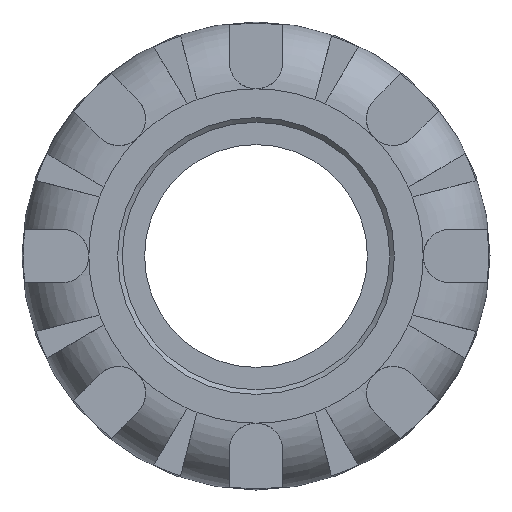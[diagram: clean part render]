
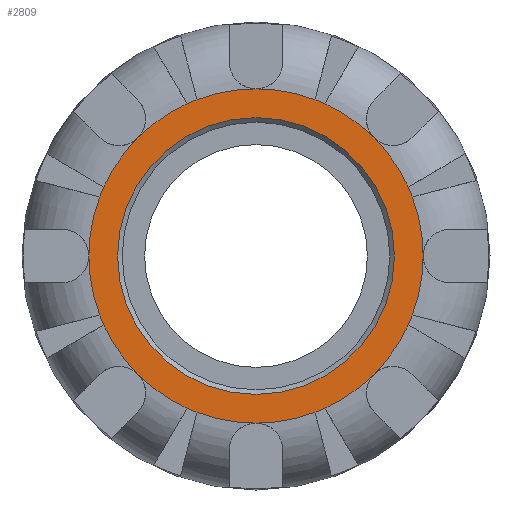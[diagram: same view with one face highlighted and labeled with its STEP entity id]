
A CAD part, left-side view. The second image highlights one B-rep face of the part: STEP entity #2809.
In plain terms, the highlighted planar face has unit normal (-1, 0, 0).
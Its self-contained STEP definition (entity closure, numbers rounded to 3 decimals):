
#25=FACE_BOUND('',#490,.T.);
#114=CIRCLE('',#3048,20.7);
#115=CIRCLE('',#3050,25.);
#116=CIRCLE('',#3051,25.);
#117=CIRCLE('',#3052,25.);
#118=CIRCLE('',#3053,25.);
#119=CIRCLE('',#3054,25.);
#120=CIRCLE('',#3055,25.);
#121=CIRCLE('',#3056,25.);
#122=CIRCLE('',#3057,25.);
#123=CIRCLE('',#3058,25.);
#124=CIRCLE('',#3059,25.);
#125=CIRCLE('',#3060,25.);
#126=CIRCLE('',#3061,25.);
#127=CIRCLE('',#3062,25.);
#128=CIRCLE('',#3063,25.);
#129=CIRCLE('',#3064,25.);
#130=CIRCLE('',#3065,25.);
#131=CIRCLE('',#3066,25.);
#132=CIRCLE('',#3067,25.);
#133=CIRCLE('',#3068,25.);
#134=CIRCLE('',#3069,25.);
#135=CIRCLE('',#3070,25.);
#136=CIRCLE('',#3071,25.);
#137=CIRCLE('',#3072,25.);
#138=CIRCLE('',#3073,25.);
#320=FACE_OUTER_BOUND('',#489,.T.);
#489=EDGE_LOOP('',(#2048,#2049,#2050,#2051,#2052,#2053,#2054,#2055,#2056,
#2057,#2058,#2059,#2060,#2061,#2062,#2063,#2064,#2065,#2066,#2067,#2068,
#2069,#2070,#2071));
#490=EDGE_LOOP('',(#2072));
#1115=VERTEX_POINT('',#5233);
#1116=VERTEX_POINT('',#5236);
#1117=VERTEX_POINT('',#5237);
#1118=VERTEX_POINT('',#5239);
#1119=VERTEX_POINT('',#5241);
#1120=VERTEX_POINT('',#5243);
#1121=VERTEX_POINT('',#5245);
#1122=VERTEX_POINT('',#5247);
#1123=VERTEX_POINT('',#5249);
#1124=VERTEX_POINT('',#5251);
#1125=VERTEX_POINT('',#5253);
#1126=VERTEX_POINT('',#5255);
#1127=VERTEX_POINT('',#5257);
#1128=VERTEX_POINT('',#5259);
#1129=VERTEX_POINT('',#5261);
#1130=VERTEX_POINT('',#5263);
#1131=VERTEX_POINT('',#5265);
#1132=VERTEX_POINT('',#5267);
#1133=VERTEX_POINT('',#5269);
#1134=VERTEX_POINT('',#5271);
#1135=VERTEX_POINT('',#5273);
#1136=VERTEX_POINT('',#5275);
#1137=VERTEX_POINT('',#5277);
#1138=VERTEX_POINT('',#5279);
#1139=VERTEX_POINT('',#5281);
#1449=EDGE_CURVE('',#1115,#1115,#114,.T.);
#1450=EDGE_CURVE('',#1116,#1117,#115,.T.);
#1451=EDGE_CURVE('',#1118,#1116,#116,.T.);
#1452=EDGE_CURVE('',#1119,#1118,#117,.T.);
#1453=EDGE_CURVE('',#1120,#1119,#118,.T.);
#1454=EDGE_CURVE('',#1121,#1120,#119,.T.);
#1455=EDGE_CURVE('',#1122,#1121,#120,.T.);
#1456=EDGE_CURVE('',#1123,#1122,#121,.T.);
#1457=EDGE_CURVE('',#1124,#1123,#122,.T.);
#1458=EDGE_CURVE('',#1125,#1124,#123,.T.);
#1459=EDGE_CURVE('',#1126,#1125,#124,.T.);
#1460=EDGE_CURVE('',#1127,#1126,#125,.T.);
#1461=EDGE_CURVE('',#1128,#1127,#126,.T.);
#1462=EDGE_CURVE('',#1129,#1128,#127,.T.);
#1463=EDGE_CURVE('',#1130,#1129,#128,.T.);
#1464=EDGE_CURVE('',#1131,#1130,#129,.T.);
#1465=EDGE_CURVE('',#1132,#1131,#130,.T.);
#1466=EDGE_CURVE('',#1133,#1132,#131,.T.);
#1467=EDGE_CURVE('',#1134,#1133,#132,.T.);
#1468=EDGE_CURVE('',#1135,#1134,#133,.T.);
#1469=EDGE_CURVE('',#1136,#1135,#134,.T.);
#1470=EDGE_CURVE('',#1137,#1136,#135,.T.);
#1471=EDGE_CURVE('',#1138,#1137,#136,.T.);
#1472=EDGE_CURVE('',#1139,#1138,#137,.T.);
#1473=EDGE_CURVE('',#1117,#1139,#138,.T.);
#2048=ORIENTED_EDGE('',*,*,#1450,.F.);
#2049=ORIENTED_EDGE('',*,*,#1451,.F.);
#2050=ORIENTED_EDGE('',*,*,#1452,.F.);
#2051=ORIENTED_EDGE('',*,*,#1453,.F.);
#2052=ORIENTED_EDGE('',*,*,#1454,.F.);
#2053=ORIENTED_EDGE('',*,*,#1455,.F.);
#2054=ORIENTED_EDGE('',*,*,#1456,.F.);
#2055=ORIENTED_EDGE('',*,*,#1457,.F.);
#2056=ORIENTED_EDGE('',*,*,#1458,.F.);
#2057=ORIENTED_EDGE('',*,*,#1459,.F.);
#2058=ORIENTED_EDGE('',*,*,#1460,.F.);
#2059=ORIENTED_EDGE('',*,*,#1461,.F.);
#2060=ORIENTED_EDGE('',*,*,#1462,.F.);
#2061=ORIENTED_EDGE('',*,*,#1463,.F.);
#2062=ORIENTED_EDGE('',*,*,#1464,.F.);
#2063=ORIENTED_EDGE('',*,*,#1465,.F.);
#2064=ORIENTED_EDGE('',*,*,#1466,.F.);
#2065=ORIENTED_EDGE('',*,*,#1467,.F.);
#2066=ORIENTED_EDGE('',*,*,#1468,.F.);
#2067=ORIENTED_EDGE('',*,*,#1469,.F.);
#2068=ORIENTED_EDGE('',*,*,#1470,.F.);
#2069=ORIENTED_EDGE('',*,*,#1471,.F.);
#2070=ORIENTED_EDGE('',*,*,#1472,.F.);
#2071=ORIENTED_EDGE('',*,*,#1473,.F.);
#2072=ORIENTED_EDGE('',*,*,#1449,.F.);
#2507=PLANE('',#3049);
#2809=ADVANCED_FACE('',(#320,#25),#2507,.T.);
#3048=AXIS2_PLACEMENT_3D('',#5234,#3591,#3592);
#3049=AXIS2_PLACEMENT_3D('',#5235,#3593,#3594);
#3050=AXIS2_PLACEMENT_3D('',#5238,#3595,#3596);
#3051=AXIS2_PLACEMENT_3D('',#5240,#3597,#3598);
#3052=AXIS2_PLACEMENT_3D('',#5242,#3599,#3600);
#3053=AXIS2_PLACEMENT_3D('',#5244,#3601,#3602);
#3054=AXIS2_PLACEMENT_3D('',#5246,#3603,#3604);
#3055=AXIS2_PLACEMENT_3D('',#5248,#3605,#3606);
#3056=AXIS2_PLACEMENT_3D('',#5250,#3607,#3608);
#3057=AXIS2_PLACEMENT_3D('',#5252,#3609,#3610);
#3058=AXIS2_PLACEMENT_3D('',#5254,#3611,#3612);
#3059=AXIS2_PLACEMENT_3D('',#5256,#3613,#3614);
#3060=AXIS2_PLACEMENT_3D('',#5258,#3615,#3616);
#3061=AXIS2_PLACEMENT_3D('',#5260,#3617,#3618);
#3062=AXIS2_PLACEMENT_3D('',#5262,#3619,#3620);
#3063=AXIS2_PLACEMENT_3D('',#5264,#3621,#3622);
#3064=AXIS2_PLACEMENT_3D('',#5266,#3623,#3624);
#3065=AXIS2_PLACEMENT_3D('',#5268,#3625,#3626);
#3066=AXIS2_PLACEMENT_3D('',#5270,#3627,#3628);
#3067=AXIS2_PLACEMENT_3D('',#5272,#3629,#3630);
#3068=AXIS2_PLACEMENT_3D('',#5274,#3631,#3632);
#3069=AXIS2_PLACEMENT_3D('',#5276,#3633,#3634);
#3070=AXIS2_PLACEMENT_3D('',#5278,#3635,#3636);
#3071=AXIS2_PLACEMENT_3D('',#5280,#3637,#3638);
#3072=AXIS2_PLACEMENT_3D('',#5282,#3639,#3640);
#3073=AXIS2_PLACEMENT_3D('',#5283,#3641,#3642);
#3591=DIRECTION('center_axis',(-1.,0.,0.));
#3592=DIRECTION('ref_axis',(0.,-1.,0.));
#3593=DIRECTION('center_axis',(-1.,0.,0.));
#3594=DIRECTION('ref_axis',(0.,0.,1.));
#3595=DIRECTION('center_axis',(1.,0.,0.));
#3596=DIRECTION('ref_axis',(0.,0.,-1.));
#3597=DIRECTION('center_axis',(1.,0.,0.));
#3598=DIRECTION('ref_axis',(0.,0.,-1.));
#3599=DIRECTION('center_axis',(1.,0.,0.));
#3600=DIRECTION('ref_axis',(0.,0.,-1.));
#3601=DIRECTION('center_axis',(1.,0.,0.));
#3602=DIRECTION('ref_axis',(0.,0.,-1.));
#3603=DIRECTION('center_axis',(1.,0.,0.));
#3604=DIRECTION('ref_axis',(0.,0.,-1.));
#3605=DIRECTION('center_axis',(1.,0.,0.));
#3606=DIRECTION('ref_axis',(0.,0.,-1.));
#3607=DIRECTION('center_axis',(1.,0.,0.));
#3608=DIRECTION('ref_axis',(0.,0.,-1.));
#3609=DIRECTION('center_axis',(1.,0.,0.));
#3610=DIRECTION('ref_axis',(0.,0.,-1.));
#3611=DIRECTION('center_axis',(1.,0.,0.));
#3612=DIRECTION('ref_axis',(0.,0.,-1.));
#3613=DIRECTION('center_axis',(1.,0.,0.));
#3614=DIRECTION('ref_axis',(0.,0.,-1.));
#3615=DIRECTION('center_axis',(1.,0.,0.));
#3616=DIRECTION('ref_axis',(0.,0.,-1.));
#3617=DIRECTION('center_axis',(1.,0.,0.));
#3618=DIRECTION('ref_axis',(0.,0.,-1.));
#3619=DIRECTION('center_axis',(1.,0.,0.));
#3620=DIRECTION('ref_axis',(0.,0.,-1.));
#3621=DIRECTION('center_axis',(1.,0.,0.));
#3622=DIRECTION('ref_axis',(0.,0.,-1.));
#3623=DIRECTION('center_axis',(1.,0.,0.));
#3624=DIRECTION('ref_axis',(0.,0.,-1.));
#3625=DIRECTION('center_axis',(1.,0.,0.));
#3626=DIRECTION('ref_axis',(0.,0.,-1.));
#3627=DIRECTION('center_axis',(1.,0.,0.));
#3628=DIRECTION('ref_axis',(0.,0.,-1.));
#3629=DIRECTION('center_axis',(1.,0.,0.));
#3630=DIRECTION('ref_axis',(0.,0.,-1.));
#3631=DIRECTION('center_axis',(1.,0.,0.));
#3632=DIRECTION('ref_axis',(0.,0.,-1.));
#3633=DIRECTION('center_axis',(1.,0.,0.));
#3634=DIRECTION('ref_axis',(0.,0.,-1.));
#3635=DIRECTION('center_axis',(1.,0.,0.));
#3636=DIRECTION('ref_axis',(0.,0.,-1.));
#3637=DIRECTION('center_axis',(1.,0.,0.));
#3638=DIRECTION('ref_axis',(0.,0.,-1.));
#3639=DIRECTION('center_axis',(1.,0.,0.));
#3640=DIRECTION('ref_axis',(0.,0.,-1.));
#3641=DIRECTION('center_axis',(1.,0.,0.));
#3642=DIRECTION('ref_axis',(0.,0.,-1.));
#5233=CARTESIAN_POINT('',(-72.5,20.7,0.));
#5234=CARTESIAN_POINT('Origin',(-72.5,0.,0.));
#5235=CARTESIAN_POINT('Origin',(-72.5,25.,0.));
#5236=CARTESIAN_POINT('',(-72.5,25.,0.));
#5237=CARTESIAN_POINT('',(-72.5,23.391,8.823));
#5238=CARTESIAN_POINT('Origin',(-72.5,0.,0.));
#5239=CARTESIAN_POINT('',(-72.5,23.391,-8.823));
#5240=CARTESIAN_POINT('Origin',(-72.5,0.,0.));
#5241=CARTESIAN_POINT('',(-72.5,22.779,-10.301));
#5242=CARTESIAN_POINT('Origin',(-72.5,0.,0.));
#5243=CARTESIAN_POINT('',(-72.5,17.678,-17.678));
#5244=CARTESIAN_POINT('Origin',(-72.5,0.,0.));
#5245=CARTESIAN_POINT('',(-72.5,10.301,-22.779));
#5246=CARTESIAN_POINT('Origin',(-72.5,0.,0.));
#5247=CARTESIAN_POINT('',(-72.5,8.823,-23.391));
#5248=CARTESIAN_POINT('Origin',(-72.5,0.,0.));
#5249=CARTESIAN_POINT('',(-72.5,0.,-25.));
#5250=CARTESIAN_POINT('Origin',(-72.5,0.,0.));
#5251=CARTESIAN_POINT('',(-72.5,-8.823,-23.391));
#5252=CARTESIAN_POINT('Origin',(-72.5,0.,0.));
#5253=CARTESIAN_POINT('',(-72.5,-10.301,-22.779));
#5254=CARTESIAN_POINT('Origin',(-72.5,0.,0.));
#5255=CARTESIAN_POINT('',(-72.5,-17.678,-17.678));
#5256=CARTESIAN_POINT('Origin',(-72.5,0.,0.));
#5257=CARTESIAN_POINT('',(-72.5,-22.779,-10.301));
#5258=CARTESIAN_POINT('Origin',(-72.5,0.,0.));
#5259=CARTESIAN_POINT('',(-72.5,-23.391,-8.823));
#5260=CARTESIAN_POINT('Origin',(-72.5,0.,0.));
#5261=CARTESIAN_POINT('',(-72.5,-25.,0.));
#5262=CARTESIAN_POINT('Origin',(-72.5,0.,0.));
#5263=CARTESIAN_POINT('',(-72.5,-23.391,8.823));
#5264=CARTESIAN_POINT('Origin',(-72.5,0.,0.));
#5265=CARTESIAN_POINT('',(-72.5,-22.779,10.301));
#5266=CARTESIAN_POINT('Origin',(-72.5,0.,0.));
#5267=CARTESIAN_POINT('',(-72.5,-17.678,17.678));
#5268=CARTESIAN_POINT('Origin',(-72.5,0.,0.));
#5269=CARTESIAN_POINT('',(-72.5,-10.301,22.779));
#5270=CARTESIAN_POINT('Origin',(-72.5,0.,0.));
#5271=CARTESIAN_POINT('',(-72.5,-8.823,23.391));
#5272=CARTESIAN_POINT('Origin',(-72.5,0.,0.));
#5273=CARTESIAN_POINT('',(-72.5,0.,25.));
#5274=CARTESIAN_POINT('Origin',(-72.5,0.,0.));
#5275=CARTESIAN_POINT('',(-72.5,8.823,23.391));
#5276=CARTESIAN_POINT('Origin',(-72.5,0.,0.));
#5277=CARTESIAN_POINT('',(-72.5,10.301,22.779));
#5278=CARTESIAN_POINT('Origin',(-72.5,0.,0.));
#5279=CARTESIAN_POINT('',(-72.5,17.678,17.678));
#5280=CARTESIAN_POINT('Origin',(-72.5,0.,0.));
#5281=CARTESIAN_POINT('',(-72.5,22.779,10.301));
#5282=CARTESIAN_POINT('Origin',(-72.5,0.,0.));
#5283=CARTESIAN_POINT('Origin',(-72.5,0.,0.));
